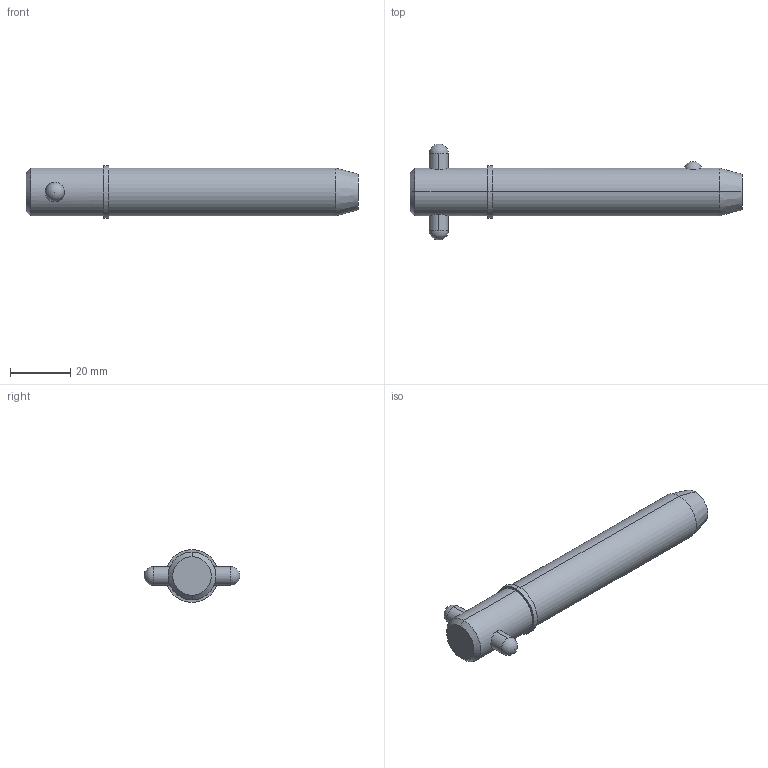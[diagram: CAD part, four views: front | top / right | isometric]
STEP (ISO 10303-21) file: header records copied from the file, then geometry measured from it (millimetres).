
FILE_DESCRIPTION (( 'STEP AP203' ), '1' );
FILE_NAME ('33018.W6225.step', '2024-11-19T17:18:24', ( '' ), ( '' ), 'SwSTEP 2.0', 'SolidWorks 2019', '' );
FILE_SCHEMA (( 'CONFIG_CONTROL_DESIGN' ));
Length unit declared in the file: millimetre
Products named in the file (3): Part2_33018.W6225; 33018.W6225; Part1_33018.W6225
Assembly tree (2 placements, depth 2):
  33018.W6225
    Part1_33018.W6225
    Part2_33018.W6225
Bounding box: 109.86 x 31.75 x 17.47 mm (x, y, z)
Volume: 21911.3 mm3; surface area: 6687.4 mm2
Topology: 2 solids, 2 shells, 22 faces, 47 edges, 30 vertices
Faces by surface type: cylinder 10, sphere 4, cone 4, plane 4
Entity records: 1047 total; most frequent: CARTESIAN_POINT 290, DIRECTION 110, ORIENTED_EDGE 82, AXIS2_PLACEMENT_3D 48, EDGE_CURVE 41, EDGE_LOOP 27, PERSON_AND_ORGANIZATION 26, VERTEX_POINT 26
